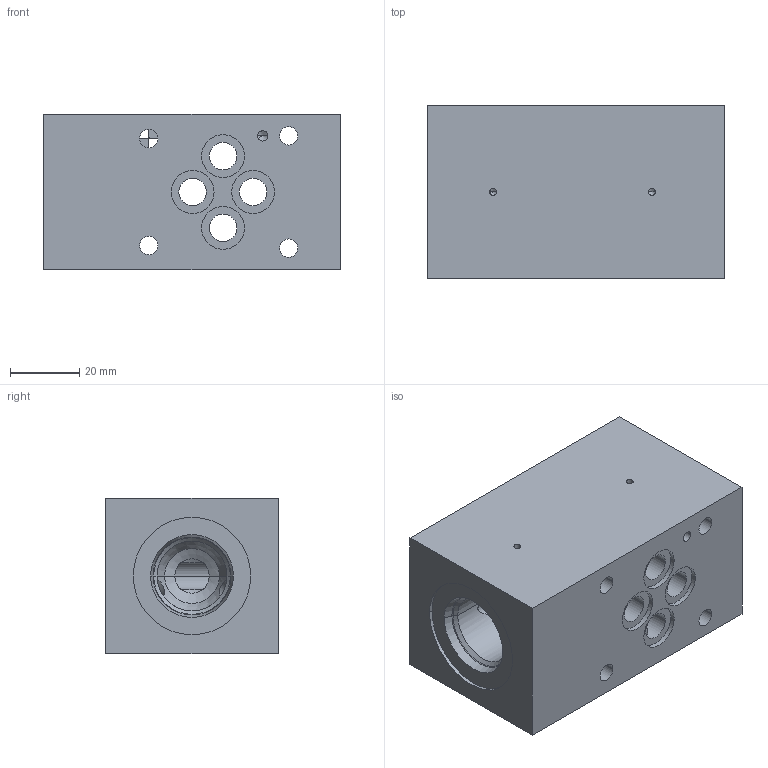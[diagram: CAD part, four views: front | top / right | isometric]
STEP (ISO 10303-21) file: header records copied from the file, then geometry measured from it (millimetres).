
FILE_DESCRIPTION((''),'2;1');
FILE_NAME('30003702','2023-10-12T',('l.soukupova'),(''),'PRO/ENGINEER BY PARAMETRIC TECHNOLOGY CORPORATION, 2015440','PRO/ENGINEER BY PARAMETRIC TECHNOLOGY CORPORATION, 2015440','');
FILE_SCHEMA(('AUTOMOTIVE_DESIGN { 1 0 10303 214 1 1 1 1 }'));
Length unit declared in the file: millimetre
Products named in the file (1): 30003702
Bounding box: 86 x 50 x 45 mm (x, y, z)
Volume: 165452.8 mm3; surface area: 32802.2 mm2
Topology: 1 solids, 4 shells, 80 faces, 316 edges, 294 vertices
Faces by surface type: cylinder 46, cone 20, plane 14
Entity records: 5164 total; most frequent: CARTESIAN_POINT 1144, DIRECTION 600, ORIENTED_EDGE 398, PRESENTATION_STYLE_ASSIGNMENT 370, STYLED_ITEM 350, CURVE_STYLE 347, AXIS2_PLACEMENT_3D 221, EDGE_CURVE 205
